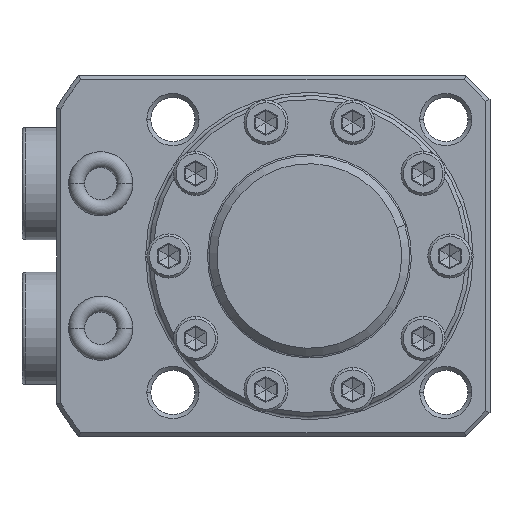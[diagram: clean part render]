
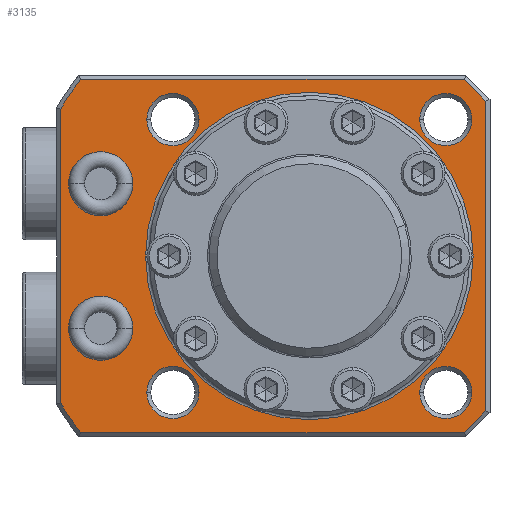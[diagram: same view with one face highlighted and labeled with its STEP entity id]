
A CAD part, front view. The second image highlights one B-rep face of the part: STEP entity #3135.
In plain terms, the highlighted planar face has unit normal (0, -1, 0).
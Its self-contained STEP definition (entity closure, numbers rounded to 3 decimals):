
#337=CARTESIAN_POINT('',(-26.,50.6,-9.));
#338=DIRECTION('',(0.,1.,0.));
#339=DIRECTION('',(-1.,0.,0.));
#340=AXIS2_PLACEMENT_3D('',#337,#338,#339);
#342=CARTESIAN_POINT('',(-26.,50.6,-9.));
#343=DIRECTION('',(0.,1.,0.));
#344=DIRECTION('',(1.,0.,0.));
#345=AXIS2_PLACEMENT_3D('',#342,#343,#344);
#347=CARTESIAN_POINT('',(-26.,50.6,9.));
#348=DIRECTION('',(0.,1.,0.));
#349=DIRECTION('',(-1.,0.,0.));
#350=AXIS2_PLACEMENT_3D('',#347,#348,#349);
#352=CARTESIAN_POINT('',(-26.,50.6,9.));
#353=DIRECTION('',(0.,1.,0.));
#354=DIRECTION('',(1.,0.,0.));
#355=AXIS2_PLACEMENT_3D('',#352,#353,#354);
#357=DIRECTION('',(0.,0.,-1.));
#358=VECTOR('',#357,36.606);
#359=CARTESIAN_POINT('',(-31.,50.6,18.303));
#360=LINE('',#359,#358);
#361=CARTESIAN_POINT('',(0.,50.6,0.));
#362=DIRECTION('',(0.,-1.,0.));
#363=DIRECTION('',(-0.792,0.,0.611));
#364=AXIS2_PLACEMENT_3D('',#361,#362,#363);
#366=DIRECTION('',(-1.,0.,0.));
#367=VECTOR('',#366,47.789);
#368=CARTESIAN_POINT('',(19.293,50.6,22.));
#369=LINE('',#368,#367);
#370=DIRECTION('',(-0.707,0.,0.707));
#371=VECTOR('',#370,3.828);
#372=CARTESIAN_POINT('',(22.,50.6,19.293));
#373=LINE('',#372,#371);
#374=DIRECTION('',(0.,0.,1.));
#375=VECTOR('',#374,38.586);
#376=CARTESIAN_POINT('',(22.,50.6,-19.293));
#377=LINE('',#376,#375);
#378=DIRECTION('',(0.707,0.,0.707));
#379=VECTOR('',#378,3.828);
#380=CARTESIAN_POINT('',(19.293,50.6,-22.));
#381=LINE('',#380,#379);
#382=DIRECTION('',(1.,0.,0.));
#383=VECTOR('',#382,47.789);
#384=CARTESIAN_POINT('',(-28.496,50.6,-22.));
#385=LINE('',#384,#383);
#386=CARTESIAN_POINT('',(0.,50.6,0.));
#387=DIRECTION('',(0.,-1.,0.));
#388=DIRECTION('',(-0.861,0.,-0.508));
#389=AXIS2_PLACEMENT_3D('',#386,#387,#388);
#391=CARTESIAN_POINT('',(-17.,50.6,17.));
#392=DIRECTION('',(0.,1.,0.));
#393=DIRECTION('',(1.,0.,0.));
#394=AXIS2_PLACEMENT_3D('',#391,#392,#393);
#396=CARTESIAN_POINT('',(-17.,50.6,17.));
#397=DIRECTION('',(0.,1.,0.));
#398=DIRECTION('',(-1.,0.,0.));
#399=AXIS2_PLACEMENT_3D('',#396,#397,#398);
#401=CARTESIAN_POINT('',(-17.,50.6,-17.));
#402=DIRECTION('',(0.,1.,0.));
#403=DIRECTION('',(1.,0.,0.));
#404=AXIS2_PLACEMENT_3D('',#401,#402,#403);
#406=CARTESIAN_POINT('',(-17.,50.6,-17.));
#407=DIRECTION('',(0.,1.,0.));
#408=DIRECTION('',(-1.,0.,0.));
#409=AXIS2_PLACEMENT_3D('',#406,#407,#408);
#411=CARTESIAN_POINT('',(17.,50.6,-17.));
#412=DIRECTION('',(0.,1.,0.));
#413=DIRECTION('',(1.,0.,0.));
#414=AXIS2_PLACEMENT_3D('',#411,#412,#413);
#416=CARTESIAN_POINT('',(17.,50.6,-17.));
#417=DIRECTION('',(0.,1.,0.));
#418=DIRECTION('',(-1.,0.,0.));
#419=AXIS2_PLACEMENT_3D('',#416,#417,#418);
#421=CARTESIAN_POINT('',(17.,50.6,17.));
#422=DIRECTION('',(0.,1.,0.));
#423=DIRECTION('',(-1.,0.,0.));
#424=AXIS2_PLACEMENT_3D('',#421,#422,#423);
#426=CARTESIAN_POINT('',(17.,50.6,17.));
#427=DIRECTION('',(0.,1.,0.));
#428=DIRECTION('',(1.,0.,0.));
#429=AXIS2_PLACEMENT_3D('',#426,#427,#428);
#431=CARTESIAN_POINT('',(0.,50.6,0.));
#432=DIRECTION('',(0.,1.,0.));
#433=DIRECTION('',(1.,0.,0.));
#434=AXIS2_PLACEMENT_3D('',#431,#432,#433);
#436=CARTESIAN_POINT('',(0.,50.6,0.));
#437=DIRECTION('',(0.,1.,0.));
#438=DIRECTION('',(-1.,0.,0.));
#439=AXIS2_PLACEMENT_3D('',#436,#437,#438);
#2289=CARTESIAN_POINT('',(-30.,50.6,-9.));
#2290=CARTESIAN_POINT('',(-22.,50.6,-9.));
#2291=VERTEX_POINT('',#2289);
#2292=VERTEX_POINT('',#2290);
#2297=CARTESIAN_POINT('',(-30.,50.6,9.));
#2298=CARTESIAN_POINT('',(-22.,50.6,9.));
#2299=VERTEX_POINT('',#2297);
#2300=VERTEX_POINT('',#2298);
#2325=CARTESIAN_POINT('',(-31.,50.6,18.303));
#2326=CARTESIAN_POINT('',(-31.,50.6,-18.303));
#2327=VERTEX_POINT('',#2325);
#2328=VERTEX_POINT('',#2326);
#2341=CARTESIAN_POINT('',(19.293,50.6,22.));
#2342=CARTESIAN_POINT('',(-28.496,50.6,22.));
#2343=VERTEX_POINT('',#2341);
#2344=VERTEX_POINT('',#2342);
#2353=CARTESIAN_POINT('',(22.,50.6,-19.293));
#2354=CARTESIAN_POINT('',(22.,50.6,19.293));
#2355=VERTEX_POINT('',#2353);
#2356=VERTEX_POINT('',#2354);
#2361=CARTESIAN_POINT('',(-28.496,50.6,-22.));
#2362=CARTESIAN_POINT('',(19.293,50.6,-22.));
#2363=VERTEX_POINT('',#2361);
#2364=VERTEX_POINT('',#2362);
#2429=CARTESIAN_POINT('',(-13.75,50.6,17.));
#2430=CARTESIAN_POINT('',(-20.25,50.6,17.));
#2431=VERTEX_POINT('',#2429);
#2432=VERTEX_POINT('',#2430);
#2437=CARTESIAN_POINT('',(-13.75,50.6,-17.));
#2438=CARTESIAN_POINT('',(-20.25,50.6,-17.));
#2439=VERTEX_POINT('',#2437);
#2440=VERTEX_POINT('',#2438);
#2445=CARTESIAN_POINT('',(20.25,50.6,-17.));
#2446=CARTESIAN_POINT('',(13.75,50.6,-17.));
#2447=VERTEX_POINT('',#2445);
#2448=VERTEX_POINT('',#2446);
#2453=CARTESIAN_POINT('',(13.75,50.6,17.));
#2454=CARTESIAN_POINT('',(20.25,50.6,17.));
#2455=VERTEX_POINT('',#2453);
#2456=VERTEX_POINT('',#2454);
#2473=CARTESIAN_POINT('',(20.4,50.6,0.));
#2474=CARTESIAN_POINT('',(-20.4,50.6,0.));
#2475=VERTEX_POINT('',#2473);
#2476=VERTEX_POINT('',#2474);
#3071=CARTESIAN_POINT('',(0.,50.6,0.));
#3072=DIRECTION('',(0.,-1.,0.));
#3073=DIRECTION('',(-1.,0.,0.));
#3074=AXIS2_PLACEMENT_3D('',#3071,#3072,#3073);
#3075=PLANE('',#3074);
#3077=ORIENTED_EDGE('',*,*,#3076,.F.);
#3079=ORIENTED_EDGE('',*,*,#3078,.F.);
#3081=ORIENTED_EDGE('',*,*,#3080,.F.);
#3083=ORIENTED_EDGE('',*,*,#3082,.F.);
#3085=ORIENTED_EDGE('',*,*,#3084,.F.);
#3087=ORIENTED_EDGE('',*,*,#3086,.F.);
#3089=ORIENTED_EDGE('',*,*,#3088,.F.);
#3091=ORIENTED_EDGE('',*,*,#3090,.F.);
#3092=EDGE_LOOP('',(#3077,#3079,#3081,#3083,#3085,#3087,#3089,#3091));
#3093=FACE_OUTER_BOUND('',#3092,.F.);
#3095=ORIENTED_EDGE('',*,*,#3094,.F.);
#3097=ORIENTED_EDGE('',*,*,#3096,.F.);
#3098=EDGE_LOOP('',(#3095,#3097));
#3099=FACE_BOUND('',#3098,.F.);
#3101=ORIENTED_EDGE('',*,*,#3100,.F.);
#3103=ORIENTED_EDGE('',*,*,#3102,.F.);
#3104=EDGE_LOOP('',(#3101,#3103));
#3105=FACE_BOUND('',#3104,.F.);
#3107=ORIENTED_EDGE('',*,*,#3106,.F.);
#3109=ORIENTED_EDGE('',*,*,#3108,.F.);
#3110=EDGE_LOOP('',(#3107,#3109));
#3111=FACE_BOUND('',#3110,.F.);
#3113=ORIENTED_EDGE('',*,*,#3112,.F.);
#3115=ORIENTED_EDGE('',*,*,#3114,.F.);
#3116=EDGE_LOOP('',(#3113,#3115));
#3117=FACE_BOUND('',#3116,.F.);
#3118=ORIENTED_EDGE('',*,*,#3061,.F.);
#3120=ORIENTED_EDGE('',*,*,#3119,.F.);
#3121=EDGE_LOOP('',(#3118,#3120));
#3122=FACE_BOUND('',#3121,.F.);
#3124=ORIENTED_EDGE('',*,*,#3123,.F.);
#3126=ORIENTED_EDGE('',*,*,#3125,.F.);
#3127=EDGE_LOOP('',(#3124,#3126));
#3128=FACE_BOUND('',#3127,.F.);
#3130=ORIENTED_EDGE('',*,*,#3129,.F.);
#3132=ORIENTED_EDGE('',*,*,#3131,.F.);
#3133=EDGE_LOOP('',(#3130,#3132));
#3134=FACE_BOUND('',#3133,.F.);
#3135=ADVANCED_FACE('',(#3093,#3099,#3105,#3111,#3117,#3122,#3128,#3134),#3075,
.T.);
#341=CIRCLE('',#340,4.);
#346=CIRCLE('',#345,4.);
#351=CIRCLE('',#350,4.);
#356=CIRCLE('',#355,4.);
#365=CIRCLE('',#364,36.);
#390=CIRCLE('',#389,36.);
#395=CIRCLE('',#394,3.25);
#400=CIRCLE('',#399,3.25);
#405=CIRCLE('',#404,3.25);
#410=CIRCLE('',#409,3.25);
#415=CIRCLE('',#414,3.25);
#420=CIRCLE('',#419,3.25);
#425=CIRCLE('',#424,3.25);
#430=CIRCLE('',#429,3.25);
#435=CIRCLE('',#434,20.4);
#440=CIRCLE('',#439,20.4);
#3061=EDGE_CURVE('',#2447,#2448,#415,.T.);
#3076=EDGE_CURVE('',#2327,#2328,#360,.T.);
#3078=EDGE_CURVE('',#2344,#2327,#365,.T.);
#3080=EDGE_CURVE('',#2343,#2344,#369,.T.);
#3082=EDGE_CURVE('',#2356,#2343,#373,.T.);
#3084=EDGE_CURVE('',#2355,#2356,#377,.T.);
#3086=EDGE_CURVE('',#2364,#2355,#381,.T.);
#3088=EDGE_CURVE('',#2363,#2364,#385,.T.);
#3090=EDGE_CURVE('',#2328,#2363,#390,.T.);
#3094=EDGE_CURVE('',#2299,#2300,#351,.T.);
#3096=EDGE_CURVE('',#2300,#2299,#356,.T.);
#3100=EDGE_CURVE('',#2291,#2292,#341,.T.);
#3102=EDGE_CURVE('',#2292,#2291,#346,.T.);
#3106=EDGE_CURVE('',#2431,#2432,#395,.T.);
#3108=EDGE_CURVE('',#2432,#2431,#400,.T.);
#3112=EDGE_CURVE('',#2439,#2440,#405,.T.);
#3114=EDGE_CURVE('',#2440,#2439,#410,.T.);
#3119=EDGE_CURVE('',#2448,#2447,#420,.T.);
#3123=EDGE_CURVE('',#2455,#2456,#425,.T.);
#3125=EDGE_CURVE('',#2456,#2455,#430,.T.);
#3129=EDGE_CURVE('',#2475,#2476,#435,.T.);
#3131=EDGE_CURVE('',#2476,#2475,#440,.T.);
